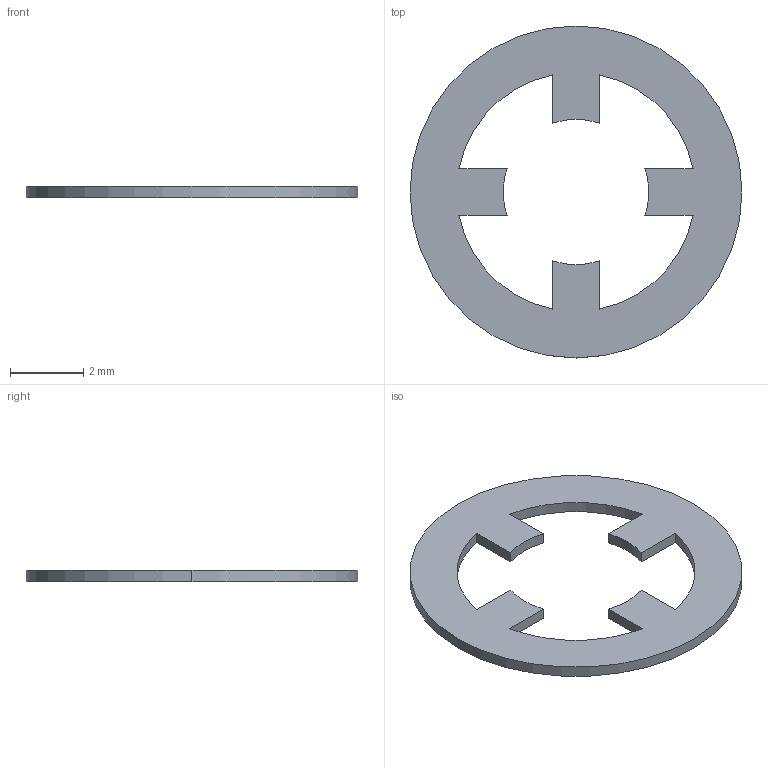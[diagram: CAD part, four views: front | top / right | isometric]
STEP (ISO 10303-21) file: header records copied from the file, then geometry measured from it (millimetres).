
FILE_DESCRIPTION((''),'2;1');
FILE_NAME('C:\work\Type-X-Carrier\hd4-chip\hd4-monolithic\5105-15-sy-retainer-ring.stp','2005-02-07T15:48:52',('a0130832'),(''),'Autodesk Inventor 8','Autodesk Inventor 8','');
FILE_SCHEMA(('AUTOMOTIVE_DESIGN { 1 0 10303 214 1 1 1 1 }'));
Length unit declared in the file: millimetre
Products named in the file (1): sy-retainer-ring
Bounding box: 9.04 x 9.04 x 0.3 mm (x, y, z)
Volume: 11.4 mm3; surface area: 93.2 mm2
Topology: 1 solids, 1 shells, 22 faces, 60 edges, 40 vertices
Faces by surface type: cylinder 12, plane 10
Entity records: 735 total; most frequent: DIRECTION 130, CARTESIAN_POINT 123, ORIENTED_EDGE 120, EDGE_CURVE 60, AXIS2_PLACEMENT_3D 47, VERTEX_POINT 40, VECTOR 36, LINE 36
